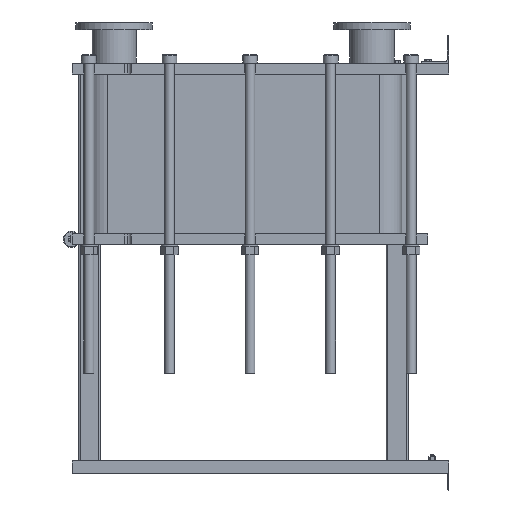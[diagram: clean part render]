
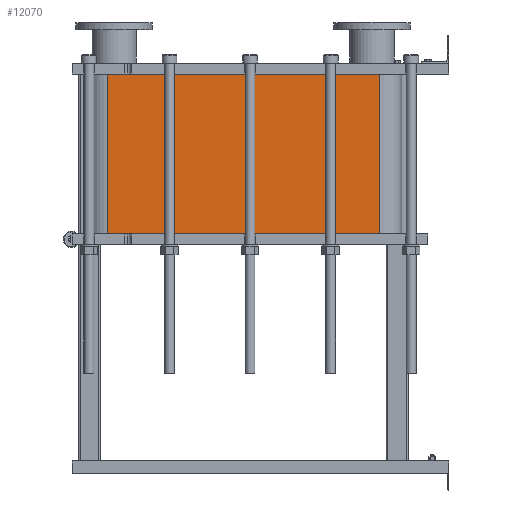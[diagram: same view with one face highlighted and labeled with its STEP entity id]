
A CAD part, left-side view. The second image highlights one B-rep face of the part: STEP entity #12070.
In plain terms, the highlighted planar face has unit normal (-1, 0, 0).
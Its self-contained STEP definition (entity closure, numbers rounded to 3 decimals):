
#1064=LINE('',#21140,#2164);
#1065=LINE('',#21144,#2165);
#1066=LINE('',#21146,#2166);
#1067=LINE('',#21147,#2167);
#2164=VECTOR('',#15790,10.);
#2165=VECTOR('',#15795,10.);
#2166=VECTOR('',#15796,10.);
#2167=VECTOR('',#15797,10.);
#3304=FACE_OUTER_BOUND('',#4091,.T.);
#4091=EDGE_LOOP('',(#9793,#9794,#9795,#9796));
#5677=VERTEX_POINT('',#21137);
#5678=VERTEX_POINT('',#21139);
#5679=VERTEX_POINT('',#21143);
#5680=VERTEX_POINT('',#21145);
#7118=EDGE_CURVE('',#5678,#5677,#1064,.T.);
#7120=EDGE_CURVE('',#5677,#5679,#1065,.T.);
#7121=EDGE_CURVE('',#5680,#5679,#1066,.T.);
#7122=EDGE_CURVE('',#5680,#5678,#1067,.T.);
#9793=ORIENTED_EDGE('',*,*,#7120,.T.);
#9794=ORIENTED_EDGE('',*,*,#7121,.F.);
#9795=ORIENTED_EDGE('',*,*,#7122,.T.);
#9796=ORIENTED_EDGE('',*,*,#7118,.T.);
#11441=PLANE('',#13191);
#12070=ADVANCED_FACE('',(#3304),#11441,.T.);
#13191=AXIS2_PLACEMENT_3D('',#21142,#15793,#15794);
#15790=DIRECTION('',(0.,0.,-1.));
#15793=DIRECTION('center_axis',(-1.,0.,0.));
#15794=DIRECTION('ref_axis',(0.,1.,0.));
#15795=DIRECTION('',(0.,-1.,0.));
#15796=DIRECTION('',(0.,0.,-1.));
#15797=DIRECTION('',(0.,1.,0.));
#21137=CARTESIAN_POINT('',(-248.152,1243.818,-583.05));
#21139=CARTESIAN_POINT('',(-248.152,1243.818,0.));
#21140=CARTESIAN_POINT('',(-248.152,1243.818,0.));
#21142=CARTESIAN_POINT('Origin',(-248.152,251.818,0.));
#21143=CARTESIAN_POINT('',(-248.152,251.818,-583.05));
#21144=CARTESIAN_POINT('',(-248.152,499.818,-583.05));
#21145=CARTESIAN_POINT('',(-248.152,251.818,0.));
#21146=CARTESIAN_POINT('',(-248.152,251.818,0.));
#21147=CARTESIAN_POINT('',(-248.152,251.818,0.));
